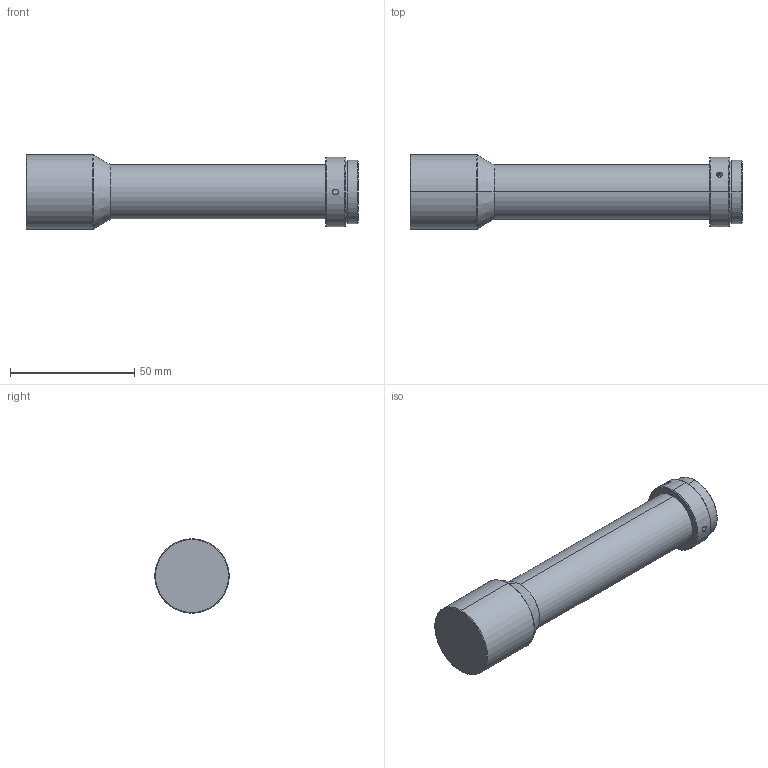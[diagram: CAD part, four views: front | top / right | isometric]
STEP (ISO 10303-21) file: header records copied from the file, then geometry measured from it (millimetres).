
FILE_DESCRIPTION (( 'STEP AP214' ), '1' );
FILE_NAME ('WWH20-110ATV4.STEP', '2025-05-09T05:45:11', ( 'China' ), ( 'Microsoft' ), 'SwSTEP 2.0', 'SolidWorks 2017', '' );
FILE_SCHEMA (( 'AUTOMOTIVE_DESIGN' ));
Length unit declared in the file: millimetre
Products named in the file (1): WWH20-110ATV4
Bounding box: 133.72 x 30 x 30 mm (x, y, z)
Volume: 63159.6 mm3; surface area: 11953.3 mm2
Topology: 1 solids, 1 shells, 46 faces, 100 edges, 62 vertices
Faces by surface type: cylinder 22, cone 12, plane 8, torus 4
Entity records: 1518 total; most frequent: CARTESIAN_POINT 425, DIRECTION 224, ORIENTED_EDGE 200, EDGE_CURVE 100, AXIS2_PLACEMENT_3D 95, VERTEX_POINT 62, EDGE_LOOP 52, CIRCLE 48
